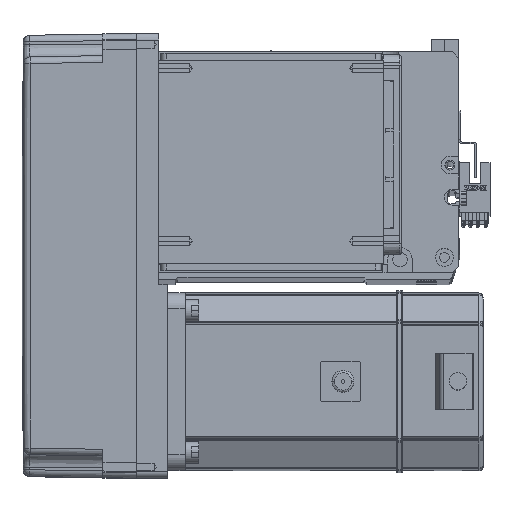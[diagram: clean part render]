
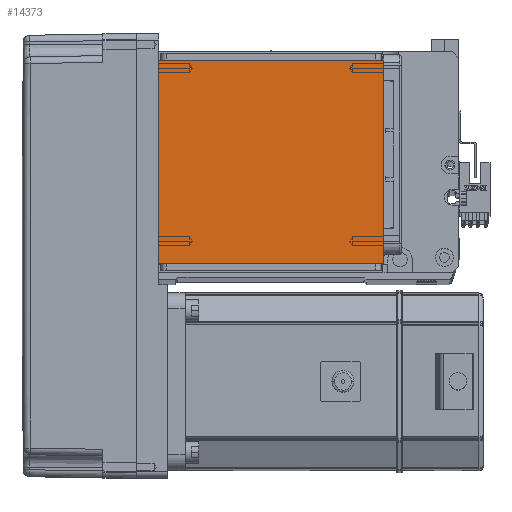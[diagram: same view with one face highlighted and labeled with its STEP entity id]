
A CAD part, top view. The second image highlights one B-rep face of the part: STEP entity #14373.
In plain terms, the highlighted planar face has unit normal (0, 0, 1).
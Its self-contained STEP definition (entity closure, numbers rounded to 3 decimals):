
#823 = CARTESIAN_POINT ( 'NONE',  ( 50.5, 111.5, 115. ) ) ;
#1886 = CARTESIAN_POINT ( 'NONE',  ( 0., 0., 115. ) ) ;
#2082 = DIRECTION ( 'NONE',  ( 1., 0., 0. ) ) ;
#6255 = FACE_OUTER_BOUND ( 'NONE', #32543, .T. ) ;
#6623 = VECTOR ( 'NONE', #37212, 1000. ) ;
#7467 = ORIENTED_EDGE ( 'NONE', *, *, #12686, .F. ) ;
#8650 = LINE ( 'NONE', #50460, #10073 ) ;
#8719 = CARTESIAN_POINT ( 'NONE',  ( -70.004, 20., 115. ) ) ;
#9735 = ORIENTED_EDGE ( 'NONE', *, *, #58068, .T. ) ;
#10073 = VECTOR ( 'NONE', #50648, 1000. ) ;
#10502 = VERTEX_POINT ( 'NONE', #41449 ) ;
#11745 = CARTESIAN_POINT ( 'NONE',  ( -50.5, 122., 115. ) ) ;
#12686 = EDGE_CURVE ( 'NONE', #35783, #56826, #8650, .T. ) ;
#14373 = ADVANCED_FACE ( 'NONE', ( #6255 ), #29578, .T. ) ;
#20158 = LINE ( 'NONE', #37405, #6623 ) ;
#20675 = CARTESIAN_POINT ( 'NONE',  ( -50.5, 111.5, 115. ) ) ;
#21084 = VECTOR ( 'NONE', #21379, 1000. ) ;
#21379 = DIRECTION ( 'NONE',  ( -1., 0., 0. ) ) ;
#23899 = VERTEX_POINT ( 'NONE', #55746 ) ;
#24110 = ORIENTED_EDGE ( 'NONE', *, *, #51131, .T. ) ;
#29578 = PLANE ( 'NONE',  #39669 ) ;
#32543 = EDGE_LOOP ( 'NONE', ( #7467, #9735, #44578, #24110 ) ) ;
#32748 = VECTOR ( 'NONE', #52839, 1000. ) ;
#35783 = VERTEX_POINT ( 'NONE', #20675 ) ;
#37212 = DIRECTION ( 'NONE',  ( 0., 1., 0. ) ) ;
#37405 = CARTESIAN_POINT ( 'NONE',  ( 50.5, 122., 115. ) ) ;
#37449 = LINE ( 'NONE', #8719, #21084 ) ;
#39669 = AXIS2_PLACEMENT_3D ( 'NONE', #1886, #56847, #2082 ) ;
#41449 = CARTESIAN_POINT ( 'NONE',  ( 50.5, 20., 115. ) ) ;
#44578 = ORIENTED_EDGE ( 'NONE', *, *, #46416, .F. ) ;
#46416 = EDGE_CURVE ( 'NONE', #10502, #23899, #37449, .T. ) ;
#50460 = CARTESIAN_POINT ( 'NONE',  ( -70.004, 111.5, 115. ) ) ;
#50648 = DIRECTION ( 'NONE',  ( 1., 0., 0. ) ) ;
#51131 = EDGE_CURVE ( 'NONE', #10502, #56826, #20158, .T. ) ;
#52839 = DIRECTION ( 'NONE',  ( 0., -1., 0. ) ) ;
#55746 = CARTESIAN_POINT ( 'NONE',  ( -50.5, 20., 115. ) ) ;
#56826 = VERTEX_POINT ( 'NONE', #823 ) ;
#56847 = DIRECTION ( 'NONE',  ( 0., 0., 1. ) ) ;
#57628 = LINE ( 'NONE', #11745, #32748 ) ;
#58068 = EDGE_CURVE ( 'NONE', #35783, #23899, #57628, .T. ) ;
